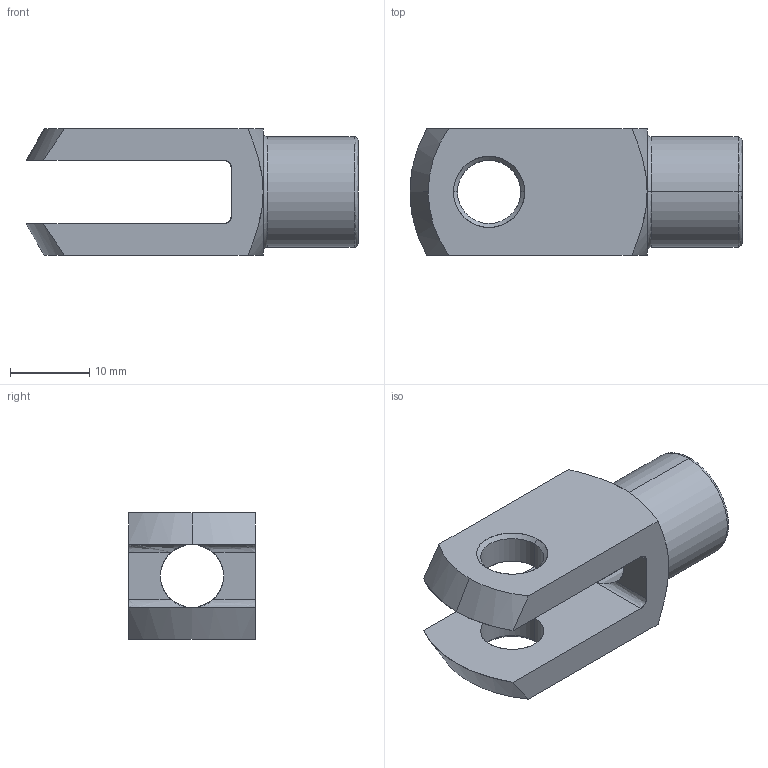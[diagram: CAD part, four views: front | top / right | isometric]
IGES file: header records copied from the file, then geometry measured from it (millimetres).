
Start section: SolidWorks IGES file using analytic representation for surfaces
Global section: file name: C:\Documents and Settings\IANO\My Documents\Wix and Auto CAD Work\CAD Models\Parametric Models\Wix Models\60000\65635_v2\65635_v2_IGES\65635.W0082.igs; native system: SolidWorks 2009; preprocessor: SolidWorks 2009; author: IANO; date: 140117.130441; units: millimetre
Bounding box: 42 x 16 x 16 mm (x, y, z)
Surface area: 3441.6 mm2 (no closed solid volume)
Topology: 0 solids, 0 shells, 39 faces, 584 edges, 584 vertices
Faces by surface type: revolution 25, bspline 14
